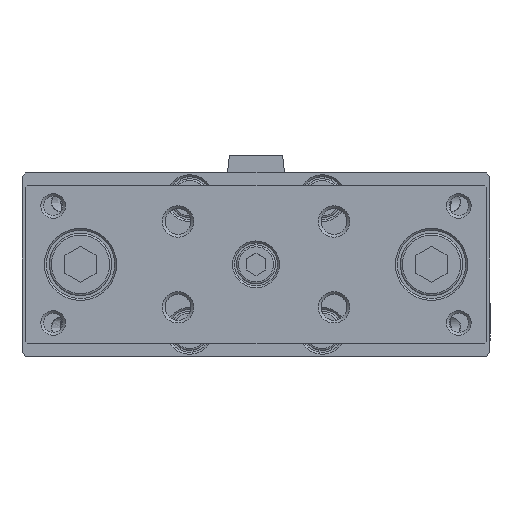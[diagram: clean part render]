
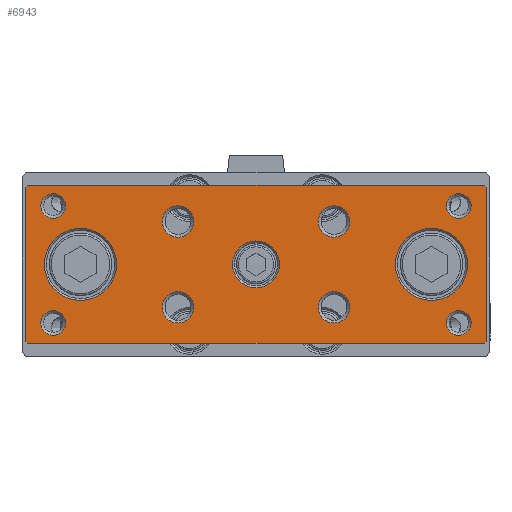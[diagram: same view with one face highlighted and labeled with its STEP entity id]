
A CAD part, top view. The second image highlights one B-rep face of the part: STEP entity #6943.
In plain terms, the highlighted planar face has unit normal (0, 0, 1).
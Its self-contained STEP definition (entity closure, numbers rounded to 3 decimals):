
#6725=CARTESIAN_POINT('',(-62.226,-20.37,126.));
#6726=VERTEX_POINT('',#6725);
#6727=CARTESIAN_POINT('',(-62.726,-19.87,126.));
#6728=VERTEX_POINT('',#6727);
#6729=CARTESIAN_POINT('',(-62.226,-20.37,126.));
#6730=DIRECTION('',(-0.707,0.707,0.0));
#6731=VECTOR('',#6730,0.707);
#6732=LINE('',#6729,#6731);
#6733=EDGE_CURVE('',#6726,#6728,#6732,.T.);
#6760=CARTESIAN_POINT('',(-3.726,-0.12,126.));
#6761=DIRECTION('',(0.0,0.0,1.0));
#6762=DIRECTION('',(1.0,0.0,0.0));
#6763=AXIS2_PLACEMENT_3D('',#6760,#6761,#6762);
#6764=PLANE('',#6763);
#6765=ORIENTED_EDGE('',*,*,#6733,.F.);
#6766=CARTESIAN_POINT('',(54.774,-20.37,126.));
#6767=VERTEX_POINT('',#6766);
#6768=CARTESIAN_POINT('',(54.774,-20.37,126.));
#6769=DIRECTION('',(-1.0,0.0,0.0));
#6770=VECTOR('',#6769,117.0);
#6771=LINE('',#6768,#6770);
#6772=EDGE_CURVE('',#6767,#6726,#6771,.T.);
#6773=ORIENTED_EDGE('',*,*,#6772,.F.);
#6774=CARTESIAN_POINT('',(55.274,-19.87,126.));
#6775=VERTEX_POINT('',#6774);
#6776=CARTESIAN_POINT('',(55.274,-19.87,126.));
#6777=DIRECTION('',(-0.707,-0.707,0.0));
#6778=VECTOR('',#6777,0.707);
#6779=LINE('',#6776,#6778);
#6780=EDGE_CURVE('',#6775,#6767,#6779,.T.);
#6781=ORIENTED_EDGE('',*,*,#6780,.F.);
#6782=CARTESIAN_POINT('',(55.274,19.63,126.));
#6783=VERTEX_POINT('',#6782);
#6784=CARTESIAN_POINT('',(55.274,19.63,126.));
#6785=DIRECTION('',(0.0,-1.0,0.0));
#6786=VECTOR('',#6785,39.5);
#6787=LINE('',#6784,#6786);
#6788=EDGE_CURVE('',#6783,#6775,#6787,.T.);
#6789=ORIENTED_EDGE('',*,*,#6788,.F.);
#6790=CARTESIAN_POINT('',(54.774,20.13,126.));
#6791=VERTEX_POINT('',#6790);
#6792=CARTESIAN_POINT('',(54.774,20.13,126.));
#6793=DIRECTION('',(0.707,-0.707,0.0));
#6794=VECTOR('',#6793,0.707);
#6795=LINE('',#6792,#6794);
#6796=EDGE_CURVE('',#6791,#6783,#6795,.T.);
#6797=ORIENTED_EDGE('',*,*,#6796,.F.);
#6798=CARTESIAN_POINT('',(-62.226,20.13,126.));
#6799=VERTEX_POINT('',#6798);
#6800=CARTESIAN_POINT('',(-62.226,20.13,126.));
#6801=DIRECTION('',(1.0,0.0,0.0));
#6802=VECTOR('',#6801,117.0);
#6803=LINE('',#6800,#6802);
#6804=EDGE_CURVE('',#6799,#6791,#6803,.T.);
#6805=ORIENTED_EDGE('',*,*,#6804,.F.);
#6806=CARTESIAN_POINT('',(-62.726,19.63,126.));
#6807=VERTEX_POINT('',#6806);
#6808=CARTESIAN_POINT('',(-62.726,19.63,126.));
#6809=DIRECTION('',(0.707,0.707,0.0));
#6810=VECTOR('',#6809,0.707);
#6811=LINE('',#6808,#6810);
#6812=EDGE_CURVE('',#6807,#6799,#6811,.T.);
#6813=ORIENTED_EDGE('',*,*,#6812,.F.);
#6814=CARTESIAN_POINT('',(-62.726,-19.87,126.));
#6815=DIRECTION('',(0.0,1.0,0.0));
#6816=VECTOR('',#6815,39.5);
#6817=LINE('',#6814,#6816);
#6818=EDGE_CURVE('',#6728,#6807,#6817,.T.);
#6819=ORIENTED_EDGE('',*,*,#6818,.F.);
#6820=EDGE_LOOP('',(#6765,#6773,#6781,#6789,#6797,#6805,#6813,#6819));
#6821=FACE_OUTER_BOUND('',#6820,.T.);
#6822=CARTESIAN_POINT('',(50.524,-0.12,126.));
#6823=VERTEX_POINT('',#6822);
#6824=CARTESIAN_POINT('',(41.274,-0.12,126.));
#6825=DIRECTION('',(0.0,0.0,1.0));
#6826=DIRECTION('',(-1.0,0.0,0.0));
#6827=AXIS2_PLACEMENT_3D('',#6824,#6825,#6826);
#6828=CIRCLE('',#6827,9.25);
#6829=EDGE_CURVE('',#6823,#6823,#6828,.T.);
#6830=ORIENTED_EDGE('',*,*,#6829,.F.);
#6831=EDGE_LOOP('',(#6830));
#6832=FACE_BOUND('',#6831,.T.);
#6833=CARTESIAN_POINT('',(2.274,-0.12,126.));
#6834=VERTEX_POINT('',#6833);
#6835=CARTESIAN_POINT('',(-3.726,-0.12,126.));
#6836=DIRECTION('',(0.0,0.0,1.0));
#6837=DIRECTION('',(-1.0,0.0,0.0));
#6838=AXIS2_PLACEMENT_3D('',#6835,#6836,#6837);
#6839=CIRCLE('',#6838,6.);
#6840=EDGE_CURVE('',#6834,#6834,#6839,.T.);
#6841=ORIENTED_EDGE('',*,*,#6840,.F.);
#6842=EDGE_LOOP('',(#6841));
#6843=FACE_BOUND('',#6842,.T.);
#6844=CARTESIAN_POINT('',(20.298,-11.12,126.));
#6845=VERTEX_POINT('',#6844);
#6846=CARTESIAN_POINT('',(16.274,-11.12,126.));
#6847=DIRECTION('',(0.0,0.0,1.0));
#6848=DIRECTION('',(-1.0,0.0,0.0));
#6849=AXIS2_PLACEMENT_3D('',#6846,#6847,#6848);
#6850=CIRCLE('',#6849,4.024);
#6851=EDGE_CURVE('',#6845,#6845,#6850,.T.);
#6852=ORIENTED_EDGE('',*,*,#6851,.F.);
#6853=EDGE_LOOP('',(#6852));
#6854=FACE_BOUND('',#6853,.T.);
#6855=CARTESIAN_POINT('',(-19.702,-11.12,126.));
#6856=VERTEX_POINT('',#6855);
#6857=CARTESIAN_POINT('',(-23.726,-11.12,126.));
#6858=DIRECTION('',(0.0,0.0,1.0));
#6859=DIRECTION('',(-1.0,0.0,0.0));
#6860=AXIS2_PLACEMENT_3D('',#6857,#6858,#6859);
#6861=CIRCLE('',#6860,4.023);
#6862=EDGE_CURVE('',#6856,#6856,#6861,.T.);
#6863=ORIENTED_EDGE('',*,*,#6862,.F.);
#6864=EDGE_LOOP('',(#6863));
#6865=FACE_BOUND('',#6864,.T.);
#6866=CARTESIAN_POINT('',(20.298,10.88,126.));
#6867=VERTEX_POINT('',#6866);
#6868=CARTESIAN_POINT('',(16.274,10.88,126.));
#6869=DIRECTION('',(0.0,0.0,1.0));
#6870=DIRECTION('',(-1.0,0.0,0.0));
#6871=AXIS2_PLACEMENT_3D('',#6868,#6869,#6870);
#6872=CIRCLE('',#6871,4.024);
#6873=EDGE_CURVE('',#6867,#6867,#6872,.T.);
#6874=ORIENTED_EDGE('',*,*,#6873,.F.);
#6875=EDGE_LOOP('',(#6874));
#6876=FACE_BOUND('',#6875,.T.);
#6877=CARTESIAN_POINT('',(-19.702,10.88,126.));
#6878=VERTEX_POINT('',#6877);
#6879=CARTESIAN_POINT('',(-23.726,10.88,126.));
#6880=DIRECTION('',(0.0,0.0,1.0));
#6881=DIRECTION('',(-1.0,0.0,0.0));
#6882=AXIS2_PLACEMENT_3D('',#6879,#6880,#6881);
#6883=CIRCLE('',#6882,4.023);
#6884=EDGE_CURVE('',#6878,#6878,#6883,.T.);
#6885=ORIENTED_EDGE('',*,*,#6884,.F.);
#6886=EDGE_LOOP('',(#6885));
#6887=FACE_BOUND('',#6886,.T.);
#6888=CARTESIAN_POINT('',(51.433,14.88,126.));
#6889=VERTEX_POINT('',#6888);
#6890=CARTESIAN_POINT('',(48.274,14.88,126.));
#6891=DIRECTION('',(0.0,0.0,1.0));
#6892=DIRECTION('',(-1.0,0.0,0.0));
#6893=AXIS2_PLACEMENT_3D('',#6890,#6891,#6892);
#6894=CIRCLE('',#6893,3.159);
#6895=EDGE_CURVE('',#6889,#6889,#6894,.T.);
#6896=ORIENTED_EDGE('',*,*,#6895,.F.);
#6897=EDGE_LOOP('',(#6896));
#6898=FACE_BOUND('',#6897,.T.);
#6899=CARTESIAN_POINT('',(51.433,-15.12,126.));
#6900=VERTEX_POINT('',#6899);
#6901=CARTESIAN_POINT('',(48.274,-15.12,126.));
#6902=DIRECTION('',(0.0,0.0,1.0));
#6903=DIRECTION('',(-1.0,0.0,0.0));
#6904=AXIS2_PLACEMENT_3D('',#6901,#6902,#6903);
#6905=CIRCLE('',#6904,3.159);
#6906=EDGE_CURVE('',#6900,#6900,#6905,.T.);
#6907=ORIENTED_EDGE('',*,*,#6906,.F.);
#6908=EDGE_LOOP('',(#6907));
#6909=FACE_BOUND('',#6908,.T.);
#6910=CARTESIAN_POINT('',(-52.567,-15.12,126.));
#6911=VERTEX_POINT('',#6910);
#6912=CARTESIAN_POINT('',(-55.726,-15.12,126.));
#6913=DIRECTION('',(0.0,0.0,1.0));
#6914=DIRECTION('',(-1.0,0.0,0.0));
#6915=AXIS2_PLACEMENT_3D('',#6912,#6913,#6914);
#6916=CIRCLE('',#6915,3.159);
#6917=EDGE_CURVE('',#6911,#6911,#6916,.T.);
#6918=ORIENTED_EDGE('',*,*,#6917,.F.);
#6919=EDGE_LOOP('',(#6918));
#6920=FACE_BOUND('',#6919,.T.);
#6921=CARTESIAN_POINT('',(-52.567,14.88,126.));
#6922=VERTEX_POINT('',#6921);
#6923=CARTESIAN_POINT('',(-55.726,14.88,126.));
#6924=DIRECTION('',(0.0,0.0,1.0));
#6925=DIRECTION('',(-1.0,0.0,0.0));
#6926=AXIS2_PLACEMENT_3D('',#6923,#6924,#6925);
#6927=CIRCLE('',#6926,3.159);
#6928=EDGE_CURVE('',#6922,#6922,#6927,.T.);
#6929=ORIENTED_EDGE('',*,*,#6928,.F.);
#6930=EDGE_LOOP('',(#6929));
#6931=FACE_BOUND('',#6930,.T.);
#6932=CARTESIAN_POINT('',(-39.476,-0.12,126.));
#6933=VERTEX_POINT('',#6932);
#6934=CARTESIAN_POINT('',(-48.726,-0.12,126.));
#6935=DIRECTION('',(0.0,0.0,1.0));
#6936=DIRECTION('',(-1.0,0.0,0.0));
#6937=AXIS2_PLACEMENT_3D('',#6934,#6935,#6936);
#6938=CIRCLE('',#6937,9.25);
#6939=EDGE_CURVE('',#6933,#6933,#6938,.T.);
#6940=ORIENTED_EDGE('',*,*,#6939,.F.);
#6941=EDGE_LOOP('',(#6940));
#6942=FACE_BOUND('',#6941,.T.);
#6943=ADVANCED_FACE('',(#6821,#6832,#6843,#6854,#6865,#6876,#6887,#6898,#6909,#6920,#6931,#6942),#6764,.T.);
